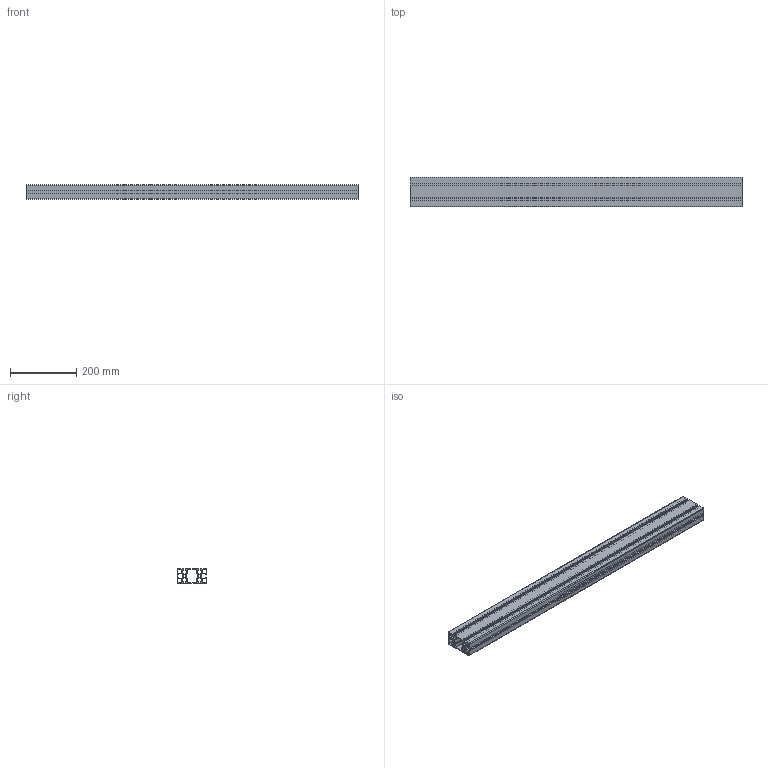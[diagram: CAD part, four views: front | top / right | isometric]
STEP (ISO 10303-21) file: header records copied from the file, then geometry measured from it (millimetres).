
FILE_DESCRIPTION (( 'STEP AP214' ), '1' );
FILE_NAME ('1.0110 45X90 L 2SS 6m 1000mm.STEP', '2026-03-17T07:51:43', ( '' ), ( '' ), 'SwSTEP 2.0', 'SolidWorks 2025', '' );
FILE_SCHEMA (( 'AUTOMOTIVE_DESIGN' ));
Length unit declared in the file: millimetre
Products named in the file (1): 1.0110 45X90 L 2SS 6m 1000mm
Bounding box: 1000 x 90 x 45 mm (x, y, z)
Volume: 1160802.7 mm3; surface area: 939597.4 mm2
Topology: 1 solids, 1 shells, 242 faces, 720 edges, 480 vertices
Faces by surface type: plane 124, cylinder 118
Entity records: 10905 total; most frequent: CARTESIAN_POINT 1443, DIRECTION 1442, ORIENTED_EDGE 1440, EDGE_CURVE 720, LINE 484, VECTOR 484, VERTEX_POINT 480, AXIS2_PLACEMENT_3D 479
